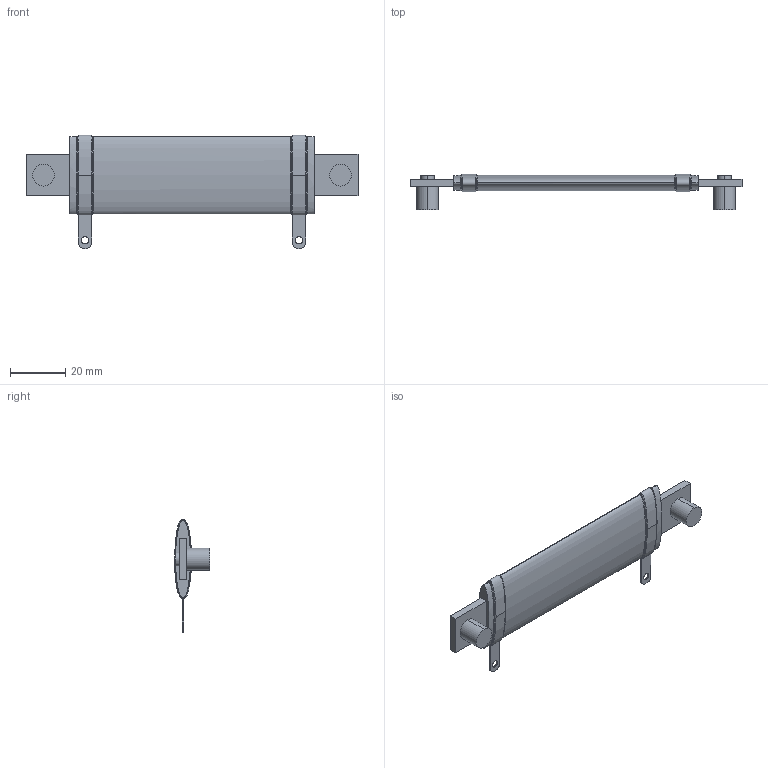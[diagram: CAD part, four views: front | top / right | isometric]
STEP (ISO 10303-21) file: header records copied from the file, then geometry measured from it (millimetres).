
FILE_DESCRIPTION (( 'STEP AP203' ), '1' );
FILE_NAME ('FSOT55-09E.STEP', '2019-11-04T15:54:04', ( '' ), ( '' ), 'SwSTEP 2.0', 'SolidWorks 2019', '' );
FILE_SCHEMA (( 'CONFIG_CONTROL_DESIGN' ));
Length unit declared in the file: millimetre
Products named in the file (1): FSOT55-09E
Bounding box: 120.66 x 12.91 x 41.12 mm (x, y, z)
Volume: 13273.6 mm3; surface area: 7362.7 mm2
Topology: 1 solids, 1 shells, 122 faces, 322 edges, 208 vertices
Faces by surface type: bspline 80, plane 26, cylinder 16
Entity records: 6447 total; most frequent: CARTESIAN_POINT 3891, ORIENTED_EDGE 644, DIRECTION 338, EDGE_CURVE 322, VERTEX_POINT 208, B_SPLINE_CURVE_WITH_KNOTS 158, AXIS2_PLACEMENT_3D 135, EDGE_LOOP 132
